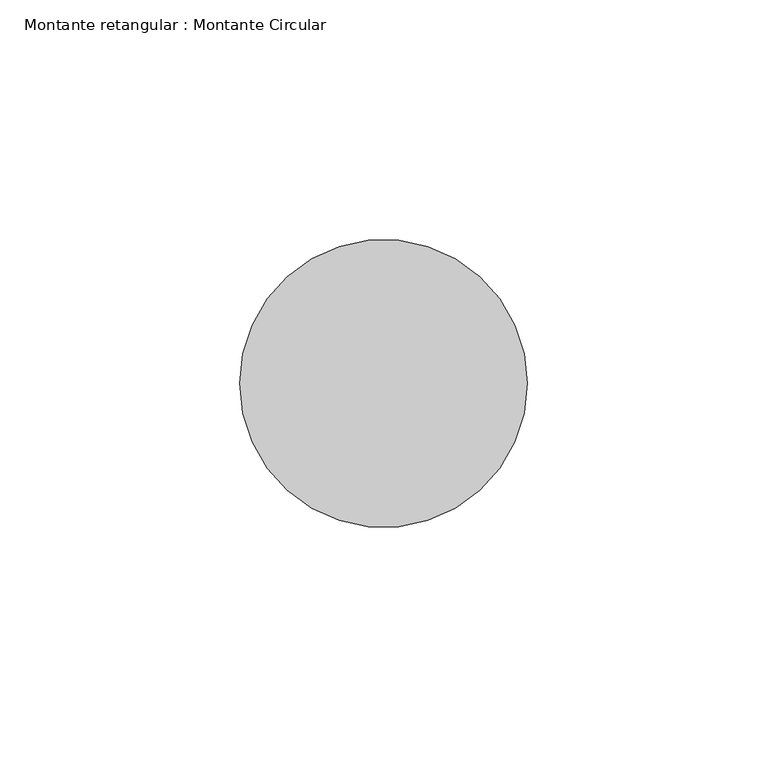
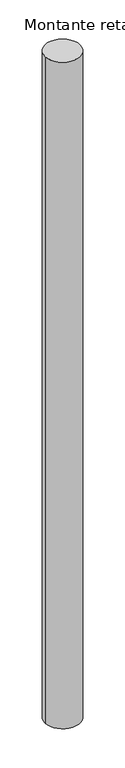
"""IFC4 building model written with IfcOpenShell, lengths in millimetres: member geometry, Montante retangular : Montante Circular."""

from ifc_helpers import new_model, si_unit, point, frame, frame_2d, origin, place, context, project, spatial, circle_curve, trimmed, segment, composite_curve, outline, extrude, source, transform, mapped, element, save


def montante_retangular_montante_circular_93a7cbd2(model_context):
    return source(origin(), model_context, "Body", "SweptSolid", [
        extrude(outline(composite_curve([segment(trimmed(circle_curve(frame_2d((-30.0, 0.0)), 30.0), [point((0.0, 0.0))], [point((-60.0, 0.0))], False, "CARTESIAN"), True, "CONTINUOUS"), segment(trimmed(circle_curve(frame_2d((-30.0, 0.0)), 30.0), [point((-60.0, 0.0))], [point((0.0, 0.0))], False, "CARTESIAN"), True, "CONTINUOUS")], self_intersect=False)), frame((0.0, 0.0, -1208.6197887), z_axis=(0.0, 0.0, 1.0), x_axis=(1.0, 0.0, 0.0)), (0.0, 0.0, 1.0), 1208.6197887),
    ])


if __name__ == "__main__":
    model = new_model("IFC4")
    model_context = context("Model", 3, world=origin())
    ifc_project = project(units=[si_unit("LENGTHUNIT", "METRE", prefix="MILLI")], contexts=[model_context])
    site = spatial("IfcSite", under=ifc_project)
    building = spatial("IfcBuilding", under=site)
    placement = place(None, origin())
    montante_retangular_montante_circular_shape = montante_retangular_montante_circular_93a7cbd2(model_context)
    element("IfcMember", 1, ObjectType="Montante retangular : Montante Circular", at=placement, inside=building, context=model_context, shape_type="MappedRepresentation", body=[
        mapped(montante_retangular_montante_circular_shape, transform((0.0, 0.0, 0.0), x_axis=(1.0, 0.0, 0.0), y_axis=(0.0, 1.0, 0.0), z_axis=(0.0, 0.0, 1.0))),
    ])
    save(model, "model.ifc")
